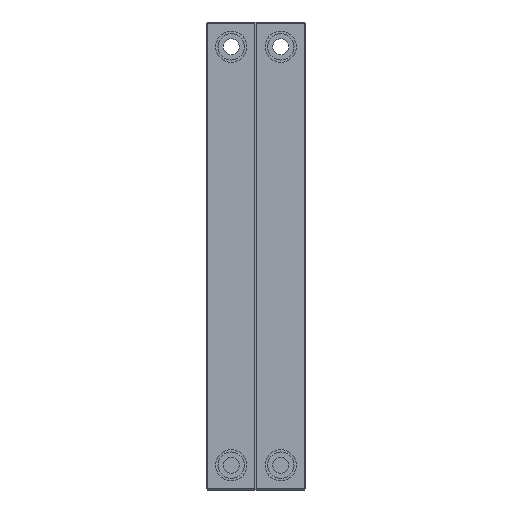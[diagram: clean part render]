
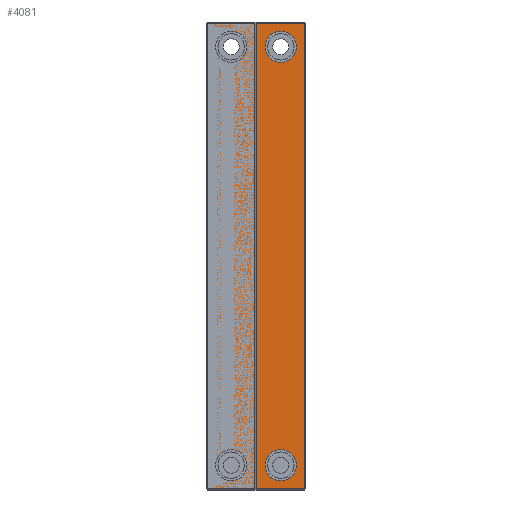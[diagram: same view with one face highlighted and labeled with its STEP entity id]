
A CAD part, front view. The second image highlights one B-rep face of the part: STEP entity #4081.
In plain terms, the highlighted planar face has unit normal (0, -1, 0).
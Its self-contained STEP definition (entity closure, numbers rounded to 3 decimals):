
#48=FACE_BOUND('',#678,.T.);
#49=FACE_BOUND('',#679,.T.);
#50=FACE_BOUND('',#680,.T.);
#51=FACE_BOUND('',#681,.T.);
#200=PLANE('',#4352);
#412=FACE_OUTER_BOUND('',#677,.T.);
#677=EDGE_LOOP('',(#3347,#3348,#3349,#3350));
#678=EDGE_LOOP('',(#3351));
#679=EDGE_LOOP('',(#3352));
#680=EDGE_LOOP('',(#3353));
#681=EDGE_LOOP('',(#3354));
#1081=LINE('',#6181,#1562);
#1083=LINE('',#6184,#1564);
#1084=LINE('',#6186,#1565);
#1087=LINE('',#6190,#1568);
#1562=VECTOR('',#5026,10.);
#1564=VECTOR('',#5030,10.);
#1565=VECTOR('',#5033,10.);
#1568=VECTOR('',#5038,10.);
#1836=CIRCLE('',#4353,5.);
#1837=CIRCLE('',#4354,5.);
#1838=CIRCLE('',#4355,5.);
#1839=CIRCLE('',#4356,5.);
#2056=VERTEX_POINT('',#6165);
#2057=VERTEX_POINT('',#6169);
#2058=VERTEX_POINT('',#6173);
#2059=VERTEX_POINT('',#6177);
#2062=VERTEX_POINT('',#6211);
#2063=VERTEX_POINT('',#6213);
#2064=VERTEX_POINT('',#6215);
#2065=VERTEX_POINT('',#6217);
#2509=EDGE_CURVE('',#2058,#2059,#1081,.T.);
#2511=EDGE_CURVE('',#2059,#2057,#1083,.T.);
#2512=EDGE_CURVE('',#2056,#2058,#1084,.T.);
#2515=EDGE_CURVE('',#2057,#2056,#1087,.T.);
#2526=EDGE_CURVE('',#2062,#2062,#1836,.T.);
#2527=EDGE_CURVE('',#2063,#2063,#1837,.T.);
#2528=EDGE_CURVE('',#2064,#2064,#1838,.T.);
#2529=EDGE_CURVE('',#2065,#2065,#1839,.T.);
#3347=ORIENTED_EDGE('',*,*,#2509,.F.);
#3348=ORIENTED_EDGE('',*,*,#2512,.F.);
#3349=ORIENTED_EDGE('',*,*,#2515,.F.);
#3350=ORIENTED_EDGE('',*,*,#2511,.F.);
#3351=ORIENTED_EDGE('',*,*,#2526,.T.);
#3352=ORIENTED_EDGE('',*,*,#2527,.T.);
#3353=ORIENTED_EDGE('',*,*,#2528,.T.);
#3354=ORIENTED_EDGE('',*,*,#2529,.T.);
#4081=ADVANCED_FACE('',(#412,#48,#49,#50,#51),#200,.T.);
#4352=AXIS2_PLACEMENT_3D('',#6210,#5065,#5066);
#4353=AXIS2_PLACEMENT_3D('',#6212,#5067,#5068);
#4354=AXIS2_PLACEMENT_3D('',#6214,#5069,#5070);
#4355=AXIS2_PLACEMENT_3D('',#6216,#5071,#5072);
#4356=AXIS2_PLACEMENT_3D('',#6218,#5073,#5074);
#5026=DIRECTION('',(1.,0.,0.));
#5030=DIRECTION('',(0.,0.,-1.));
#5033=DIRECTION('',(0.,0.,1.));
#5038=DIRECTION('',(-1.,0.,0.));
#5065=DIRECTION('center_axis',(0.,-1.,0.));
#5066=DIRECTION('ref_axis',(0.,0.,-1.));
#5067=DIRECTION('center_axis',(0.,1.,0.));
#5068=DIRECTION('ref_axis',(1.,0.,0.));
#5069=DIRECTION('center_axis',(0.,1.,0.));
#5070=DIRECTION('ref_axis',(1.,0.,0.));
#5071=DIRECTION('center_axis',(0.,1.,0.));
#5072=DIRECTION('ref_axis',(1.,0.,0.));
#5073=DIRECTION('center_axis',(0.,1.,0.));
#5074=DIRECTION('ref_axis',(1.,0.,0.));
#6165=CARTESIAN_POINT('',(0.4,-28.,0.4));
#6169=CARTESIAN_POINT('',(31.35,-28.,0.4));
#6173=CARTESIAN_POINT('',(0.4,-28.,149.6));
#6177=CARTESIAN_POINT('',(31.35,-28.,149.6));
#6181=CARTESIAN_POINT('',(7.938,-28.,149.6));
#6184=CARTESIAN_POINT('',(31.35,-28.,3.969));
#6186=CARTESIAN_POINT('',(0.4,-28.,11.906));
#6190=CARTESIAN_POINT('',(3.969,-28.,0.4));
#6210=CARTESIAN_POINT('Origin',(7.938,-28.,7.938));
#6211=CARTESIAN_POINT('',(2.938,-28.,7.938));
#6212=CARTESIAN_POINT('Origin',(7.938,-28.,7.938));
#6213=CARTESIAN_POINT('',(2.938,-28.,142.063));
#6214=CARTESIAN_POINT('Origin',(7.938,-28.,142.063));
#6215=CARTESIAN_POINT('',(18.813,-28.,142.063));
#6216=CARTESIAN_POINT('Origin',(23.813,-28.,142.063));
#6217=CARTESIAN_POINT('',(18.813,-28.,7.938));
#6218=CARTESIAN_POINT('Origin',(23.813,-28.,7.938));
